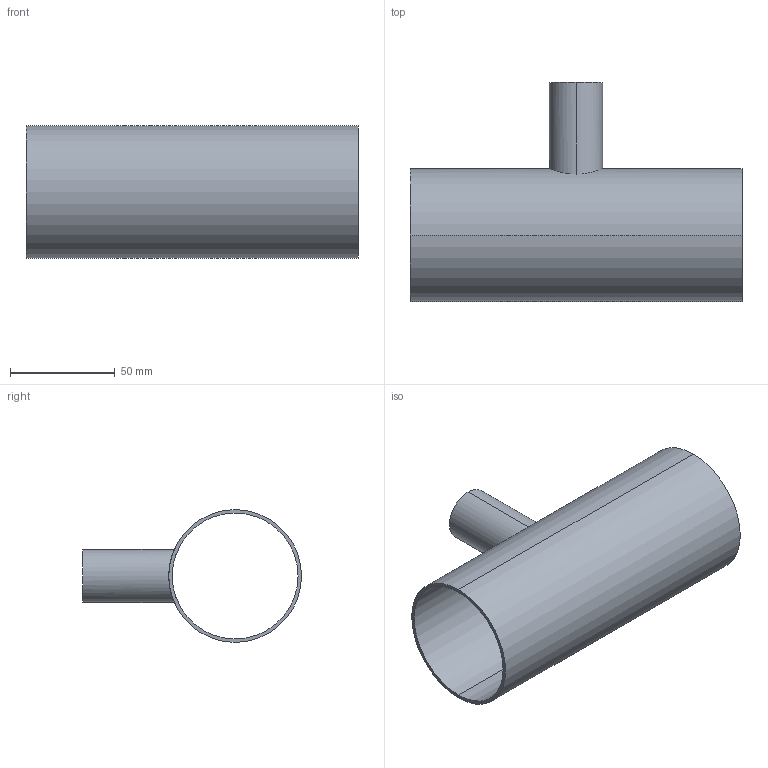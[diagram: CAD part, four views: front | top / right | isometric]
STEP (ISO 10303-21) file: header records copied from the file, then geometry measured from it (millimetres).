
FILE_DESCRIPTION (( 'STEP AP214' ), '1' );
FILE_NAME ('TE7RWWW6L2.5x1.0-...STEP', '2016-05-24T04:17:31', ( 'eran' ), ( '' ), 'SwSTEP 2.0', 'SolidWorks 2016', '' );
FILE_SCHEMA (( 'AUTOMOTIVE_DESIGN' ));
Length unit declared in the file: millimetre
Products named in the file (1): TE7RWWW6L2.5x1.0-..
Bounding box: 158.8 x 104.75 x 63.5 mm (x, y, z)
Volume: 55488.5 mm3; surface area: 68015.5 mm2
Topology: 1 solids, 1 shells, 11 faces, 24 edges, 16 vertices
Faces by surface type: cylinder 8, plane 3
Entity records: 536 total; most frequent: CARTESIAN_POINT 244, DIRECTION 56, ORIENTED_EDGE 48, AXIS2_PLACEMENT_3D 24, EDGE_CURVE 24, VERTEX_POINT 16, EDGE_LOOP 16, CIRCLE 12
